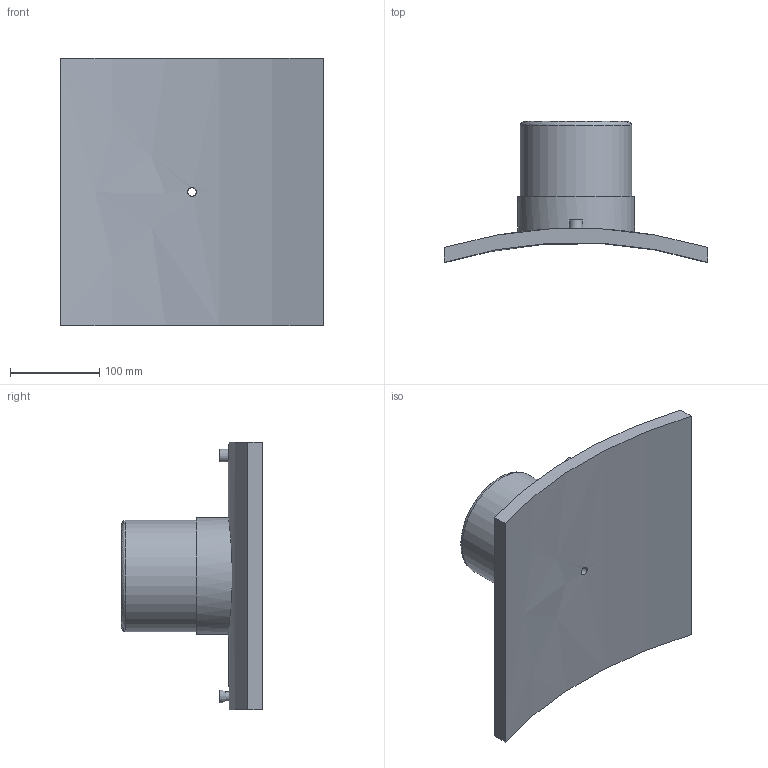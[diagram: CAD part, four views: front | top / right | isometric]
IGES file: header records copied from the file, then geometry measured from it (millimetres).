
Global section: file name: 4958031000125T.ipt; native system: Autodesk Inventor 2019; preprocessor: unknown; author: KIM; date: 20210225.094945; units: millimetre
Bounding box: 295 x 158.25 x 300 mm (x, y, z)
Volume: 2025262.7 mm3; surface area: 291804.7 mm2
Topology: 2 solids, 2 shells, 29 faces, 54 edges, 38 vertices
Faces by surface type: plane 13, revolution 7, cylinder 7, cone 2
Full cylindrical faces by diameter (mm): 4 x2, 16 x1, 125 x1, 131.25 x1
